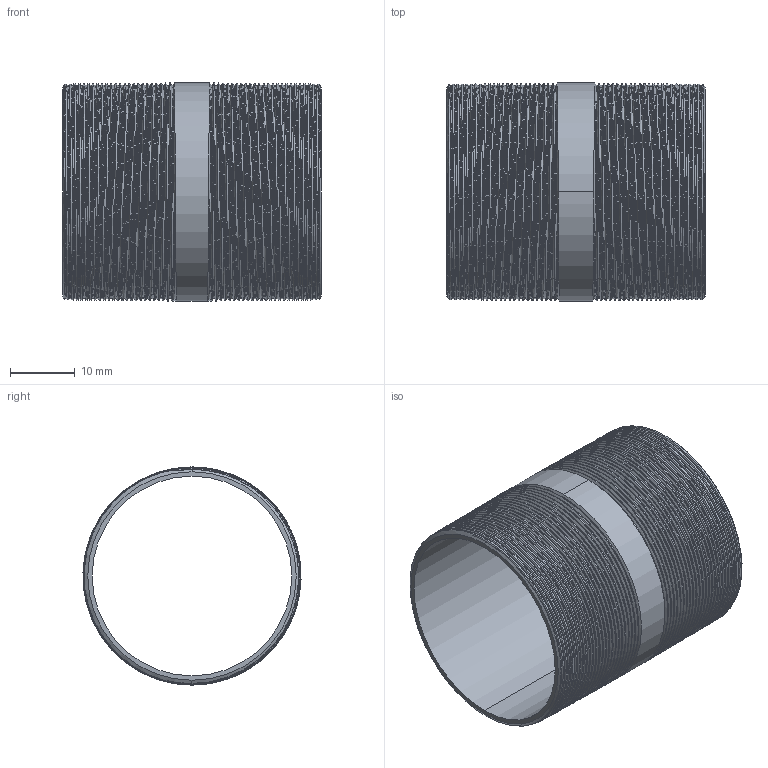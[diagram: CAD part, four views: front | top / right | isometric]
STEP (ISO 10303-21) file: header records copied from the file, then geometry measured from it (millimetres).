
FILE_DESCRIPTION (( 'STEP AP203' ), '1' );
FILE_NAME ('3D_R210_1x40_17148548.STEP', '2024-08-16T09:59:27', ( '' ), ( '' ), 'SwSTEP 2.0', 'SolidWorks 2024', '' );
FILE_SCHEMA (( 'CONFIG_CONTROL_DESIGN' ));
Length unit declared in the file: millimetre
Products named in the file (1): 3D_R210_1x40_17148548
Bounding box: 40 x 33.68 x 33.7 mm (x, y, z)
Volume: 4917.3 mm3; surface area: 9958.3 mm2
Topology: 1 solids, 1 shells, 116 faces, 336 edges, 222 vertices
Faces by surface type: cone 102, bspline 6, cylinder 4, plane 4
Entity records: 17827 total; most frequent: CARTESIAN_POINT 15139, ORIENTED_EDGE 672, DIRECTION 354, EDGE_CURVE 336, VERTEX_POINT 222, B_SPLINE_CURVE_WITH_KNOTS 206, AXIS2_PLACEMENT_3D 121, EDGE_LOOP 118
